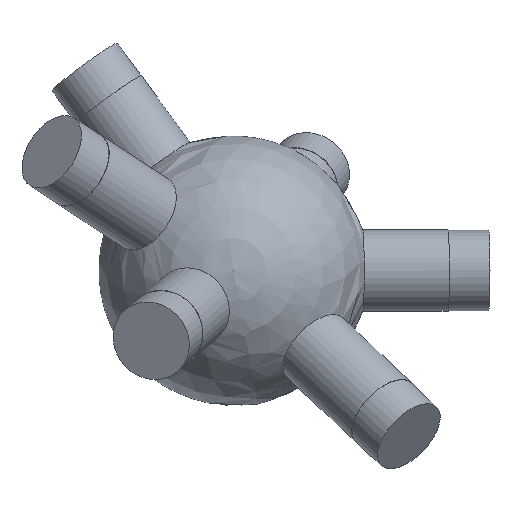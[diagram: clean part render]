
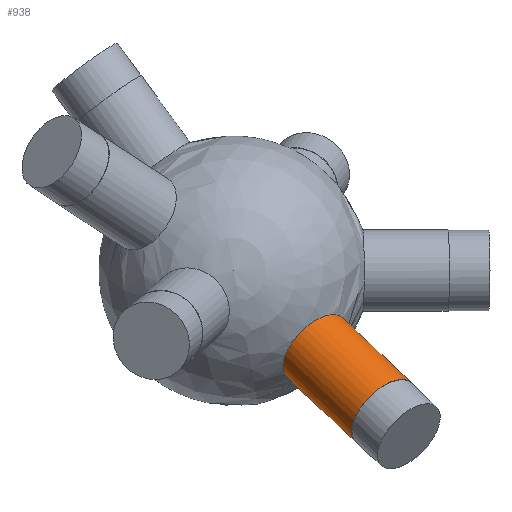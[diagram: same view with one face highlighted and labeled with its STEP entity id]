
A CAD part, top view. The second image highlights one B-rep face of the part: STEP entity #938.
In plain terms, the highlighted cylindrical face has radius 6 mm (diameter 12 mm), a full revolution.
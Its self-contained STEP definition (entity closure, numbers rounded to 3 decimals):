
#33 = SPHERICAL_SURFACE('',#34,20.);
#34 = AXIS2_PLACEMENT_3D('',#35,#36,#37);
#35 = CARTESIAN_POINT('',(0.,0.,0.));
#36 = DIRECTION('',(0.,0.,1.));
#37 = DIRECTION('',(1.,0.,-0.));
#512 = EDGE_CURVE('',#513,#513,#515,.T.);
#513 = VERTEX_POINT('',#514);
#514 = CARTESIAN_POINT('',(16.085,-6.965,
    9.63));
#515 = SURFACE_CURVE('',#516,(#521,#576),.PCURVE_S1.);
#516 = CIRCLE('',#517,6.);
#517 = AXIS2_PLACEMENT_3D('',#518,#519,#520);
#518 = CARTESIAN_POINT('',(11.961,-11.322,
    9.63));
#519 = DIRECTION('',(0.627,-0.593,0.505));
#520 = DIRECTION('',(0.687,0.726,0.));
#521 = PCURVE('',#33,#522);
#522 = DEFINITIONAL_REPRESENTATION('',(#523),#575);
#523 = B_SPLINE_CURVE_WITH_KNOTS('',8,(#524,#525,#526,#527,#528,#529,
    #530,#531,#532,#533,#534,#535,#536,#537,#538,#539,#540,#541,#542,
    #543,#544,#545,#546,#547,#548,#549,#550,#551,#552,#553,#554,#555,
    #556,#557,#558,#559,#560,#561,#562,#563,#564,#565,#566,#567,#568,
    #569,#570,#571,#572,#573,#574),.UNSPECIFIED.,.T.,.F.,(9,7,7,7,7,7,7,
    9),(0.,0.785,1.473,2.074,2.6,
    3.521,4.902,6.283),.UNSPECIFIED.);
#524 = CARTESIAN_POINT('',(5.875,0.502));
#525 = CARTESIAN_POINT('',(5.88,0.531));
#526 = CARTESIAN_POINT('',(5.883,0.561));
#527 = CARTESIAN_POINT('',(5.882,0.591));
#528 = CARTESIAN_POINT('',(5.877,0.62));
#529 = CARTESIAN_POINT('',(5.868,0.649));
#530 = CARTESIAN_POINT('',(5.854,0.677));
#531 = CARTESIAN_POINT('',(5.836,0.703));
#532 = CARTESIAN_POINT('',(5.793,0.748));
#533 = CARTESIAN_POINT('',(5.77,0.768));
#534 = CARTESIAN_POINT('',(5.743,0.785));
#535 = CARTESIAN_POINT('',(5.713,0.8));
#536 = CARTESIAN_POINT('',(5.68,0.813));
#537 = CARTESIAN_POINT('',(5.644,0.822));
#538 = CARTESIAN_POINT('',(5.607,0.829));
#539 = CARTESIAN_POINT('',(5.536,0.835));
#540 = CARTESIAN_POINT('',(5.502,0.835));
#541 = CARTESIAN_POINT('',(5.468,0.833));
#542 = CARTESIAN_POINT('',(5.435,0.828));
#543 = CARTESIAN_POINT('',(5.403,0.821));
#544 = CARTESIAN_POINT('',(5.373,0.812));
#545 = CARTESIAN_POINT('',(5.345,0.801));
#546 = CARTESIAN_POINT('',(5.296,0.776));
#547 = CARTESIAN_POINT('',(5.275,0.763));
#548 = CARTESIAN_POINT('',(5.257,0.748));
#549 = CARTESIAN_POINT('',(5.24,0.733));
#550 = CARTESIAN_POINT('',(5.225,0.716));
#551 = CARTESIAN_POINT('',(5.212,0.699));
#552 = CARTESIAN_POINT('',(5.202,0.681));
#553 = CARTESIAN_POINT('',(5.178,0.63));
#554 = CARTESIAN_POINT('',(5.169,0.596));
#555 = CARTESIAN_POINT('',(5.165,0.561));
#556 = CARTESIAN_POINT('',(5.167,0.526));
#557 = CARTESIAN_POINT('',(5.174,0.491));
#558 = CARTESIAN_POINT('',(5.185,0.458));
#559 = CARTESIAN_POINT('',(5.2,0.426));
#560 = CARTESIAN_POINT('',(5.246,0.351));
#561 = CARTESIAN_POINT('',(5.282,0.31));
#562 = CARTESIAN_POINT('',(5.324,0.276));
#563 = CARTESIAN_POINT('',(5.372,0.249));
#564 = CARTESIAN_POINT('',(5.423,0.23));
#565 = CARTESIAN_POINT('',(5.477,0.221));
#566 = CARTESIAN_POINT('',(5.531,0.221));
#567 = CARTESIAN_POINT('',(5.636,0.238));
#568 = CARTESIAN_POINT('',(5.687,0.255));
#569 = CARTESIAN_POINT('',(5.735,0.282));
#570 = CARTESIAN_POINT('',(5.778,0.316));
#571 = CARTESIAN_POINT('',(5.814,0.356));
#572 = CARTESIAN_POINT('',(5.844,0.402));
#573 = CARTESIAN_POINT('',(5.864,0.451));
#574 = CARTESIAN_POINT('',(5.875,0.502));
#575 = ( GEOMETRIC_REPRESENTATION_CONTEXT(2) 
PARAMETRIC_REPRESENTATION_CONTEXT() REPRESENTATION_CONTEXT('2D SPACE',''
  ) );
#576 = PCURVE('',#577,#582);
#577 = CYLINDRICAL_SURFACE('',#578,6.);
#578 = AXIS2_PLACEMENT_3D('',#579,#580,#581);
#579 = CARTESIAN_POINT('',(0.,0.,0.));
#580 = DIRECTION('',(0.627,-0.593,0.505));
#581 = DIRECTION('',(0.687,0.726,0.));
#582 = DEFINITIONAL_REPRESENTATION('',(#583),#587);
#583 = LINE('',#584,#585);
#584 = CARTESIAN_POINT('',(0.,19.079));
#585 = VECTOR('',#586,1.);
#586 = DIRECTION('',(1.,0.));
#587 = ( GEOMETRIC_REPRESENTATION_CONTEXT(2) 
PARAMETRIC_REPRESENTATION_CONTEXT() REPRESENTATION_CONTEXT('2D SPACE',''
  ) );
#938 = ADVANCED_FACE('',(#939),#577,.T.);
#939 = FACE_BOUND('',#940,.T.);
#940 = EDGE_LOOP('',(#941,#964,#991,#992));
#941 = ORIENTED_EDGE('',*,*,#942,.T.);
#942 = EDGE_CURVE('',#513,#943,#945,.T.);
#943 = VERTEX_POINT('',#944);
#944 = CARTESIAN_POINT('',(26.212,-16.551,
    17.784));
#945 = SEAM_CURVE('',#946,(#950,#957),.PCURVE_S1.);
#946 = LINE('',#947,#948);
#947 = CARTESIAN_POINT('',(4.125,4.357,
    0.));
#948 = VECTOR('',#949,1.);
#949 = DIRECTION('',(0.627,-0.593,0.505));
#950 = PCURVE('',#577,#951);
#951 = DEFINITIONAL_REPRESENTATION('',(#952),#956);
#952 = LINE('',#953,#954);
#953 = CARTESIAN_POINT('',(6.283,-0.));
#954 = VECTOR('',#955,1.);
#955 = DIRECTION('',(0.,1.));
#956 = ( GEOMETRIC_REPRESENTATION_CONTEXT(2) 
PARAMETRIC_REPRESENTATION_CONTEXT() REPRESENTATION_CONTEXT('2D SPACE',''
  ) );
#957 = PCURVE('',#577,#958);
#958 = DEFINITIONAL_REPRESENTATION('',(#959),#963);
#959 = LINE('',#960,#961);
#960 = CARTESIAN_POINT('',(0.,-0.));
#961 = VECTOR('',#962,1.);
#962 = DIRECTION('',(0.,1.));
#963 = ( GEOMETRIC_REPRESENTATION_CONTEXT(2) 
PARAMETRIC_REPRESENTATION_CONTEXT() REPRESENTATION_CONTEXT('2D SPACE',''
  ) );
#964 = ORIENTED_EDGE('',*,*,#965,.F.);
#965 = EDGE_CURVE('',#943,#943,#966,.T.);
#966 = SURFACE_CURVE('',#967,(#972,#979),.PCURVE_S1.);
#967 = CIRCLE('',#968,6.);
#968 = AXIS2_PLACEMENT_3D('',#969,#970,#971);
#969 = CARTESIAN_POINT('',(22.087,-20.909,
    17.784));
#970 = DIRECTION('',(0.627,-0.593,0.505));
#971 = DIRECTION('',(0.687,0.726,0.)
  );
#972 = PCURVE('',#577,#973);
#973 = DEFINITIONAL_REPRESENTATION('',(#974),#978);
#974 = LINE('',#975,#976);
#975 = CARTESIAN_POINT('',(0.,35.232));
#976 = VECTOR('',#977,1.);
#977 = DIRECTION('',(1.,0.));
#978 = ( GEOMETRIC_REPRESENTATION_CONTEXT(2) 
PARAMETRIC_REPRESENTATION_CONTEXT() REPRESENTATION_CONTEXT('2D SPACE',''
  ) );
#979 = PCURVE('',#980,#985);
#980 = PLANE('',#981);
#981 = AXIS2_PLACEMENT_3D('',#982,#983,#984);
#982 = CARTESIAN_POINT('',(22.087,-20.909,
    17.784));
#983 = DIRECTION('',(0.627,-0.593,0.505));
#984 = DIRECTION('',(0.687,0.726,0.));
#985 = DEFINITIONAL_REPRESENTATION('',(#986),#990);
#986 = CIRCLE('',#987,6.);
#987 = AXIS2_PLACEMENT_2D('',#988,#989);
#988 = CARTESIAN_POINT('',(0.,0.));
#989 = DIRECTION('',(1.,0.));
#990 = ( GEOMETRIC_REPRESENTATION_CONTEXT(2) 
PARAMETRIC_REPRESENTATION_CONTEXT() REPRESENTATION_CONTEXT('2D SPACE',''
  ) );
#991 = ORIENTED_EDGE('',*,*,#942,.F.);
#992 = ORIENTED_EDGE('',*,*,#512,.T.);
